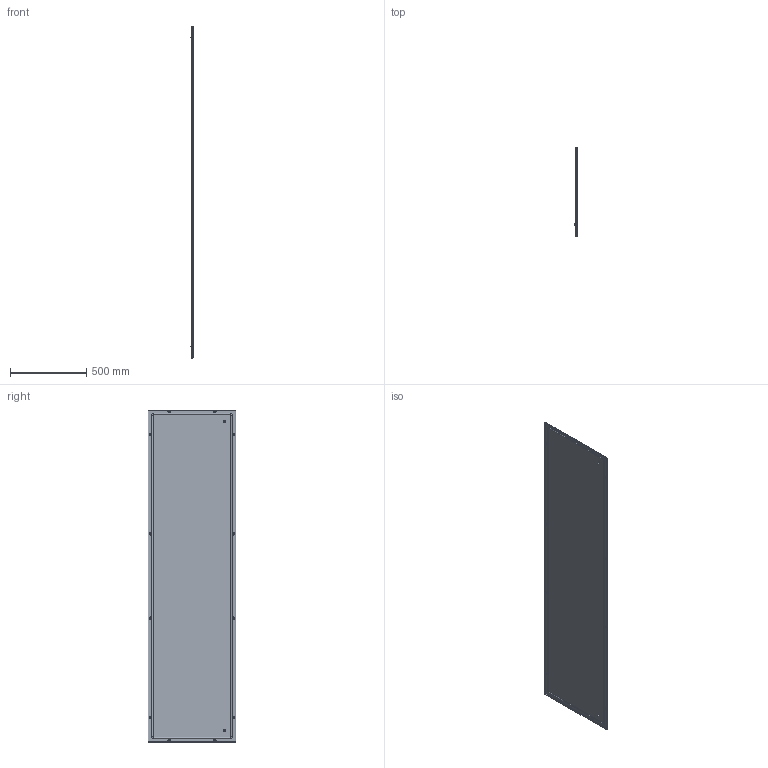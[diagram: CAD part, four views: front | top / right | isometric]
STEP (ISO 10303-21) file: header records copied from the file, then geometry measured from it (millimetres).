
FILE_DESCRIPTION(('STEP AP203'), '1');
FILE_NAME('3302 眈翴錪 捘', '', ('UNSPECIFIED'), ('UNSPECIFIED'), 'C3D Converter', 'C3D Toolkit', '');
FILE_SCHEMA(('CONFIG_CONTROL_DESIGN'));
Length unit declared in the file: millimetre
Products named in the file (4): 3302.220.60 СБ; 3211
Assembly tree (15 placements, depth 2):
  3302.220.60 СБ
    3211
    (unnamed)  x2
    (unnamed)  x12
Bounding box: 17.5 x 573 x 2171 mm (x, y, z)
Volume: 2140829.7 mm3; surface area: 2765335.7 mm2
Topology: 16 solids, 16 shells, 469 faces, 1212 edges, 840 vertices
Faces by surface type: plane 323, cylinder 66, cone 50, torus 30
Full cylindrical faces by diameter (mm): 5 x12, 6 x14, 9.2 x12, 11.5 x4
Entity records: 6021 total; most frequent: CARTESIAN_POINT 1735, DIRECTION 798, ORIENTED_EDGE 584, AXIS2_PLACEMENT_3D 325, EDGE_CURVE 292, EDGE_LOOP 276, VERTEX_POINT 220, ADVANCED_FACE 165
